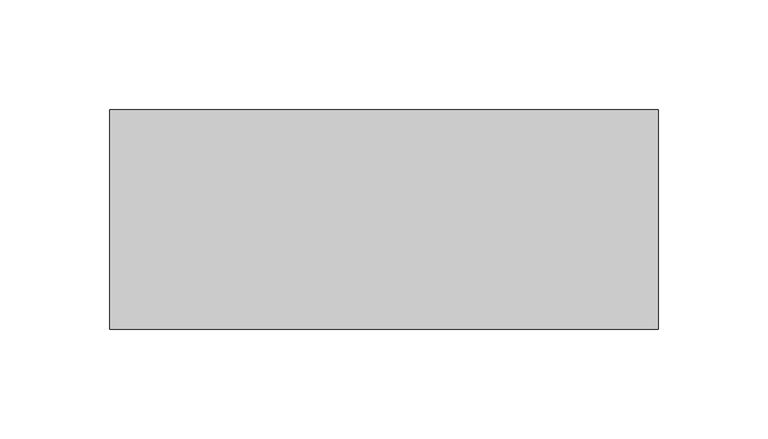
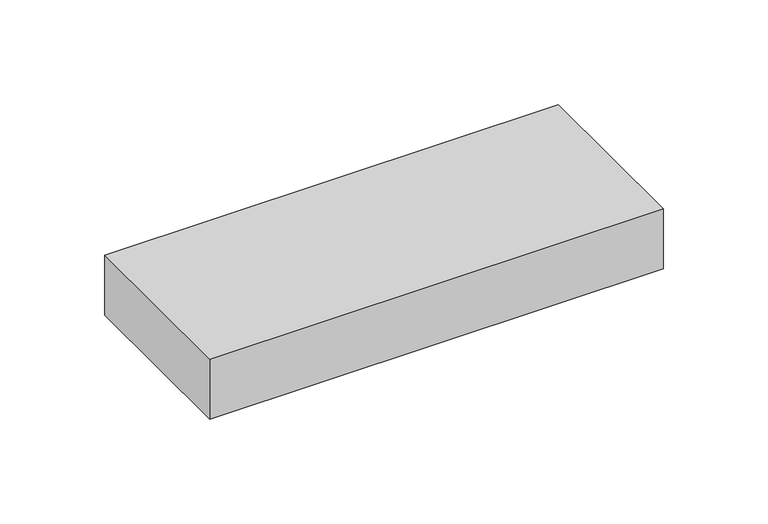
"""IFC4 building model written with IfcOpenShell, lengths in millimetres: furniture geometry, Pixel_Multiple : Pixel_Multiple."""

from ifc_helpers import new_model, si_unit, origin, origin_with_axes, place, context, project, spatial, polyline, outline, extrude, source, transform, mapped, element, save


def furniture_e3328a38(model_context):
    return source(origin(), model_context, "Body", "SweptSolid", [
        extrude(outline(polyline([(250.0, 0.0), (0.0, 0.0), (0.0, 100.0), (250.0, 100.0), (250.0, 0.0)])), origin_with_axes(), (0.0, 0.0, 1.0), 35.0),
    ])


if __name__ == "__main__":
    model = new_model("IFC4")
    model_context = context("Model", 3, world=origin())
    ifc_project = project(units=[si_unit("LENGTHUNIT", "METRE", prefix="MILLI")], contexts=[model_context])
    site = spatial("IfcSite", under=ifc_project)
    building = spatial("IfcBuilding", under=site)
    placement = place(None, origin())
    furniture_shape = furniture_e3328a38(model_context)
    element("IfcFurniture", 1, ObjectType="Pixel_Multiple : Pixel_Multiple", at=placement, inside=building, context=model_context, shape_type="MappedRepresentation", body=[
        mapped(furniture_shape, transform((0.0, 0.0, 0.0), x_axis=(1.0, 0.0, 0.0), y_axis=(0.0, 1.0, 0.0), z_axis=(0.0, 0.0, 1.0))),
    ])
    save(model, "model.ifc")
